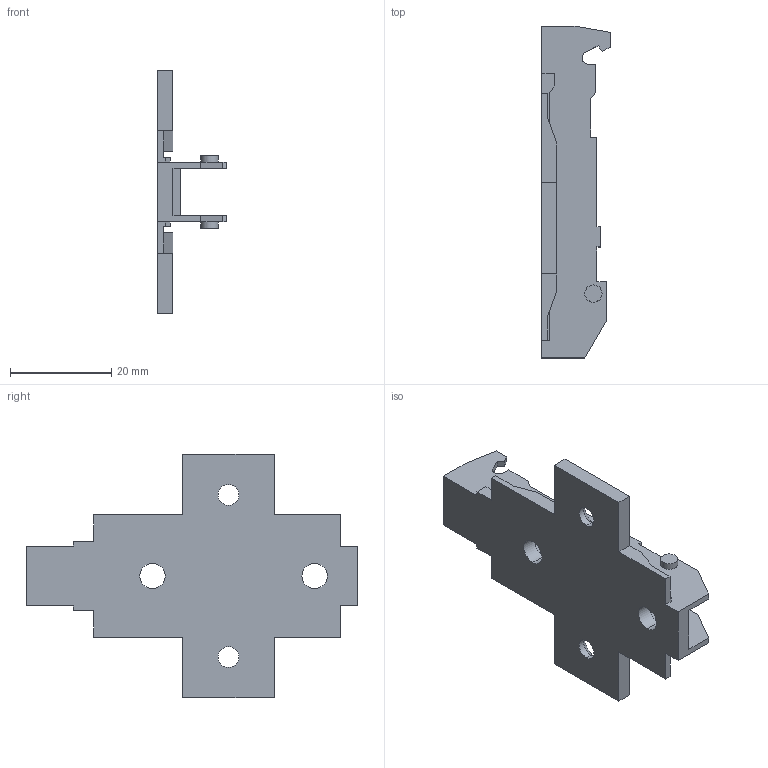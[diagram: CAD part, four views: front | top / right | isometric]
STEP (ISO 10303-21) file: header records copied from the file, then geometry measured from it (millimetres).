
FILE_DESCRIPTION (( 'STEP AP214' ), '1' );
FILE_NAME ('1D_Kreuzmontageplatte 37_32_Spax_3.step', '2018-10-02T12:38:35', ( '' ), ( '' ), 'SwSTEP 2.0', 'SolidWorks 2017', '' );
FILE_SCHEMA (( 'AUTOMOTIVE_DESIGN' ));
Length unit declared in the file: millimetre
Products named in the file (1): 1D_Kreuzmontageplatte 37_32_Spax_3
Bounding box: 13.5 x 65.5 x 48 mm (x, y, z)
Volume: 6119 mm3; surface area: 6688.2 mm2
Topology: 1 solids, 1 shells, 106 faces, 302 edges, 200 vertices
Faces by surface type: plane 84, cylinder 18, cone 4
Entity records: 3464 total; most frequent: CARTESIAN_POINT 609, ORIENTED_EDGE 604, DIRECTION 556, EDGE_CURVE 302, VECTOR 262, LINE 262, VERTEX_POINT 200, AXIS2_PLACEMENT_3D 147
